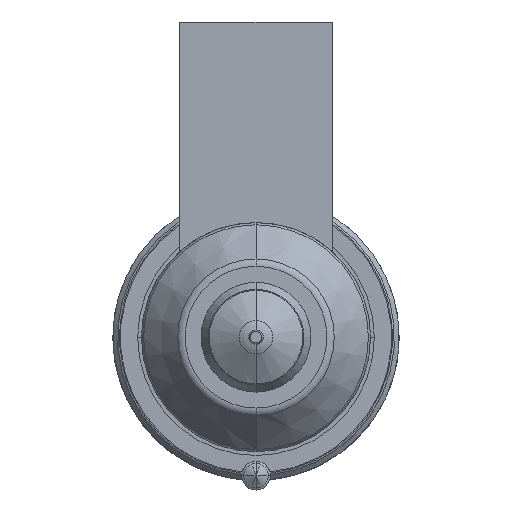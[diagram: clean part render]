
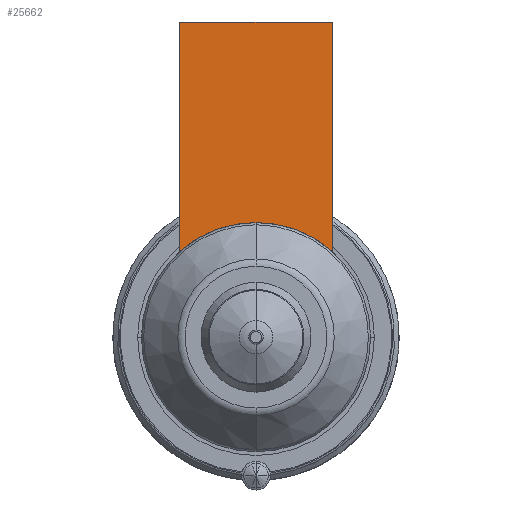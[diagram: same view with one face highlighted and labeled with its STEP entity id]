
A CAD part, front view. The second image highlights one B-rep face of the part: STEP entity #25662.
In plain terms, the highlighted planar face has unit normal (0, -1, 0).
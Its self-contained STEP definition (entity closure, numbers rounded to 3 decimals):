
#24744=DIRECTION('',(0.,0.,-1.));
#24745=VECTOR('',#24744,24.056);
#24746=CARTESIAN_POINT('',(-8.,-56.,33.));
#24747=LINE('',#24746,#24745);
#24784=DIRECTION('',(1.,0.,0.));
#24785=VECTOR('',#24784,16.);
#24786=CARTESIAN_POINT('',(-8.,-56.,33.));
#24787=LINE('',#24786,#24785);
#24791=CARTESIAN_POINT('',(0.,-56.,0.));
#24792=DIRECTION('',(0.,-1.,0.));
#24793=DIRECTION('',(0.667,0.,0.745));
#24794=AXIS2_PLACEMENT_3D('',#24791,#24792,#24793);
#24799=CARTESIAN_POINT('',(0.,-56.,0.));
#24800=DIRECTION('',(0.,-1.,0.));
#24801=DIRECTION('',(0.,0.,1.));
#24802=AXIS2_PLACEMENT_3D('',#24799,#24800,#24801);
#24835=DIRECTION('',(0.,0.,-1.));
#24836=VECTOR('',#24835,24.056);
#24837=CARTESIAN_POINT('',(8.,-56.,33.));
#24838=LINE('',#24837,#24836);
#25498=CARTESIAN_POINT('',(-8.,-56.,33.));
#25499=VERTEX_POINT('',#25498);
#25504=CARTESIAN_POINT('',(8.,-56.,33.));
#25505=VERTEX_POINT('',#25504);
#25508=CARTESIAN_POINT('',(-8.,-56.,8.944));
#25509=VERTEX_POINT('',#25508);
#25512=CARTESIAN_POINT('',(8.,-56.,8.944));
#25513=VERTEX_POINT('',#25512);
#25581=CARTESIAN_POINT('',(0.,-56.,12.));
#25582=VERTEX_POINT('',#25581);
#25647=CARTESIAN_POINT('',(-8.,-56.,33.));
#25648=DIRECTION('',(0.,-1.,0.));
#25649=DIRECTION('',(0.,0.,-1.));
#25650=AXIS2_PLACEMENT_3D('',#25647,#25648,#25649);
#25651=PLANE('',#25650);
#25652=ORIENTED_EDGE('',*,*,#25595,.F.);
#25654=ORIENTED_EDGE('',*,*,#25653,.T.);
#25656=ORIENTED_EDGE('',*,*,#25655,.T.);
#25658=ORIENTED_EDGE('',*,*,#25657,.T.);
#25659=ORIENTED_EDGE('',*,*,#25627,.T.);
#25660=EDGE_LOOP('',(#25652,#25654,#25656,#25658,#25659));
#25661=FACE_OUTER_BOUND('',#25660,.F.);
#25662=ADVANCED_FACE('',(#25661),#25651,.T.);
#24795=CIRCLE('',#24794,12.);
#24803=CIRCLE('',#24802,12.);
#25595=EDGE_CURVE('',#25499,#25509,#24747,.T.);
#25627=EDGE_CURVE('',#25582,#25509,#24803,.T.);
#25653=EDGE_CURVE('',#25499,#25505,#24787,.T.);
#25655=EDGE_CURVE('',#25505,#25513,#24838,.T.);
#25657=EDGE_CURVE('',#25513,#25582,#24795,.T.);
